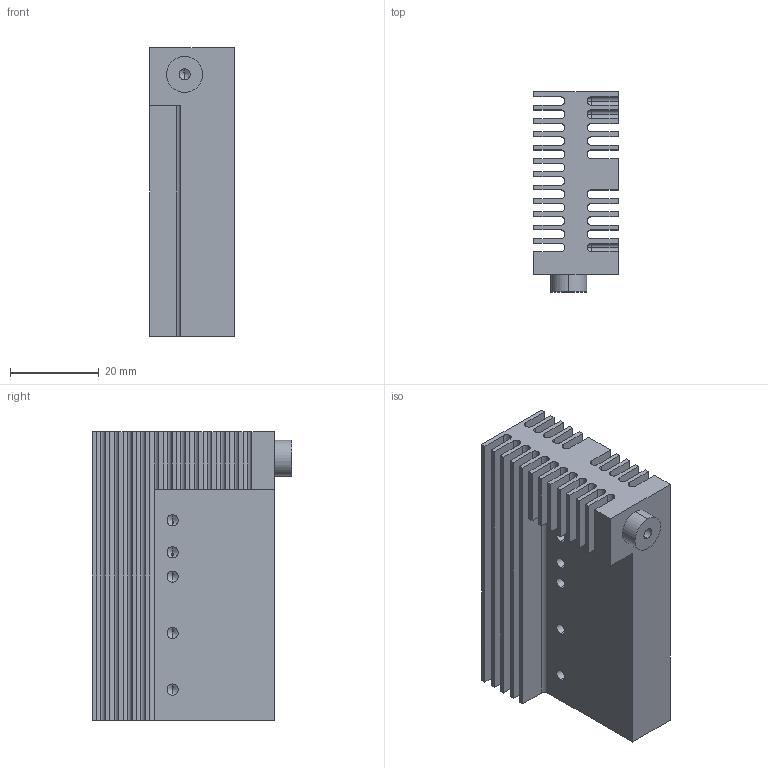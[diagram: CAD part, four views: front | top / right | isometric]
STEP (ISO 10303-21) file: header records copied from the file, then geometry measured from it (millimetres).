
FILE_DESCRIPTION (( 'STEP AP203' ), '1' );
FILE_NAME ('DIODE HS 1-2A_HV_MOD.STEP', '2020-04-20T13:35:09', ( '' ), ( '' ), 'SwSTEP 2.0', 'SolidWorks 2018', '' );
FILE_SCHEMA (( 'CONFIG_CONTROL_DESIGN' ));
Length unit declared in the file: millimetre
Products named in the file (1): DIODE HS 1-2A_HV_MOD
Bounding box: 19 x 45 x 65 mm (x, y, z)
Volume: 26993.3 mm3; surface area: 22343.8 mm2
Topology: 1 solids, 1 shells, 169 faces, 461 edges, 281 vertices
Faces by surface type: plane 79, cylinder 68, cone 16, sphere 6
Entity records: 5229 total; most frequent: DIRECTION 918, CARTESIAN_POINT 890, ORIENTED_EDGE 878, EDGE_CURVE 439, AXIS2_PLACEMENT_3D 309, LINE 300, VECTOR 300, VERTEX_POINT 281
